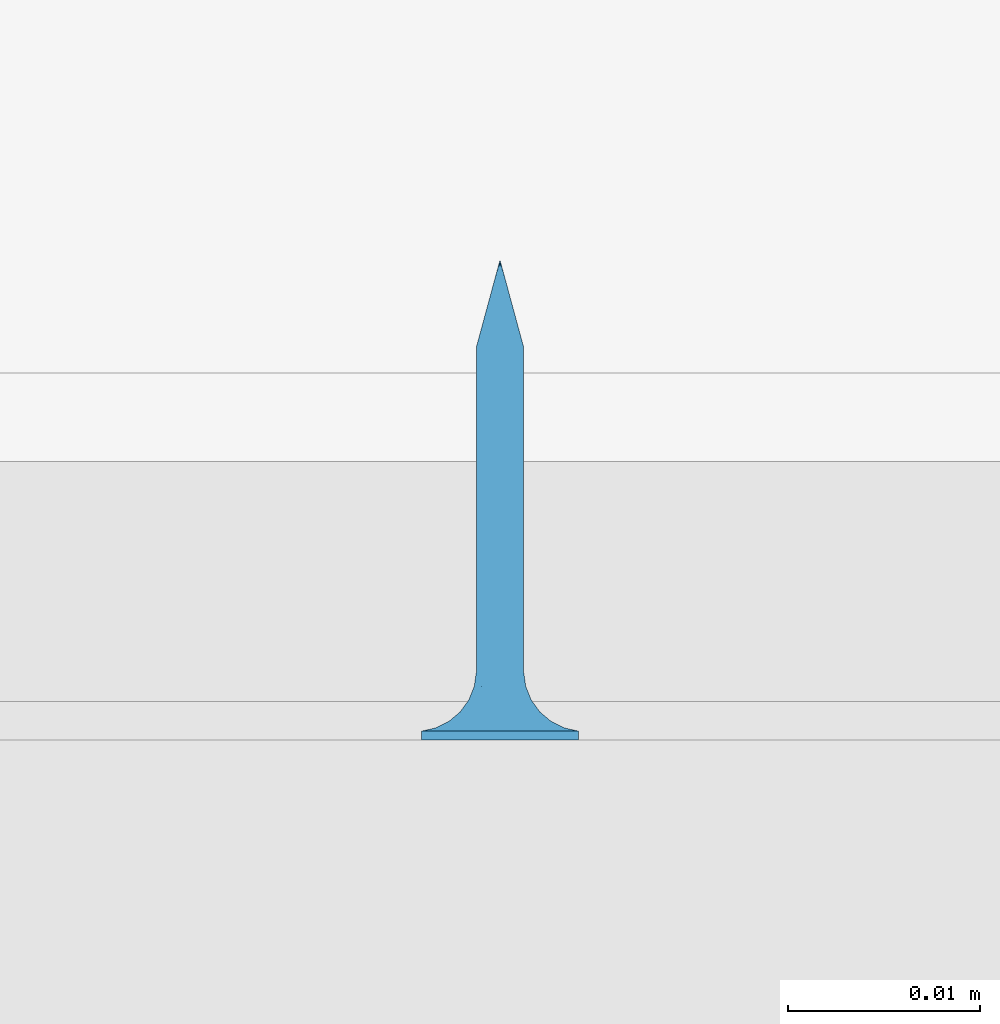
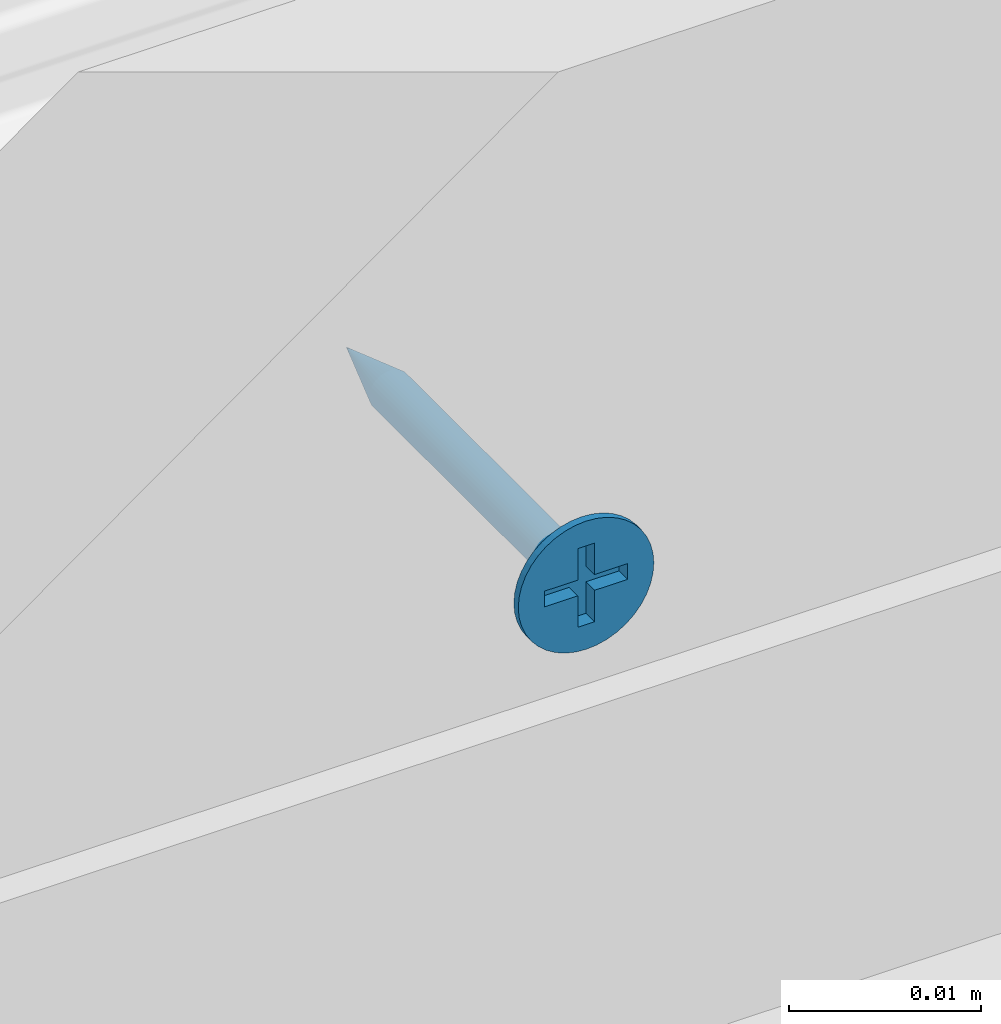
# One storey, part 9 of 79: 1 slab.
"""IFC2X3 building model written with IfcOpenShell, lengths in millimetres."""

from ifc_helpers import new_model, entity, si_unit, converted_unit, direction, frame, origin, origin_with_axes, place, context, project, spatial, faceted_brep, element, save


model = new_model("IFC2X3")

# Units and contexts
model_context = context("Model", 3, precision=1e-05, world=origin(), true_north=direction((0.0, 1.0, 0.0)))
ifc_project = project(units=[si_unit("LENGTHUNIT", "METRE", prefix="MILLI"), si_unit("AREAUNIT", "SQUARE_METRE"), si_unit("VOLUMEUNIT", "CUBIC_METRE"), converted_unit("PLANEANGLEUNIT", "DEGREE", entity("IfcPlaneAngleMeasure", 0.01745), si_unit("PLANEANGLEUNIT", "RADIAN"), dimensions=[0, 0, 0, 0, 0, 0, 0]), si_unit("SOLIDANGLEUNIT", "STERADIAN"), si_unit("MASSUNIT", "GRAM"), si_unit("TIMEUNIT", "SECOND"), si_unit("THERMODYNAMICTEMPERATUREUNIT", "DEGREE_CELSIUS"), si_unit("LUMINOUSINTENSITYUNIT", "LUMEN")], contexts=[model_context])

# Site, building, storey
site_placement = place(None, origin_with_axes())
site = spatial("IfcSite", under=ifc_project, at=site_placement, Name="Default Site", CompositionType="ELEMENT")
building_placement = place(site_placement, origin_with_axes())
building = spatial("IfcBuilding", under=site, at=building_placement, Name="Default Building", CompositionType="ELEMENT")
storey_placement = place(building_placement, origin_with_axes())
storey = spatial("IfcBuildingStorey", under=building, at=storey_placement, Name="Default Building Storey", CompositionType="ELEMENT", Elevation=0.0)

# Slab
slab_placement = place(storey_placement, frame((2330.499834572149, 5018.418709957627, 456.3541102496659), z_axis=(0.0, 0.0, 1.0), x_axis=(1.0, 0.0, 0.0)))
element("IfcSlab", 1, at=slab_placement, inside=storey, Name="Wkręt RIGIPS TN 25", context=model_context, shape_type="Brep", body=[
    faceted_brep([(-136.5890362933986, -3387.475459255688, 554.9298199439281), (-136.4636235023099, -3387.475459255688, 555.0766594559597), (-136.4636235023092, -3370.55807436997, 555.0766594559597), (-136.5890362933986, -3370.55807436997, 554.9298199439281), (-136.9005263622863, -3387.475459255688, 554.7035091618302), (-136.9005263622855, -3370.55807436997, 554.7035091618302), (-137.0789337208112, -3370.55807436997, 554.6296104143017), (-137.078933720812, -3387.475459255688, 554.6296104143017), (-137.2667048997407, -3387.475459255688, 554.5845305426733), (-137.2667048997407, -3370.55807436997, 554.5845305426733), (-137.4592163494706, -3370.55807436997, 554.5693795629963), (-137.4592163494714, -3387.475459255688, 554.5693795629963), (-136.4636235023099, -3387.475459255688, 556.5233405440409), (-136.5890362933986, -3387.475459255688, 556.6701800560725), (-136.5890362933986, -3370.55807436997, 556.6701800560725), (-136.4636235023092, -3370.55807436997, 556.5233405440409), (-138.4548091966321, -3370.55807436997, 556.5233405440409), (-138.3293964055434, -3370.55807436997, 556.6701800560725), (-138.3293964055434, -3387.475459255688, 556.6701800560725), (-138.4548091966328, -3387.475459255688, 556.5233405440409), (-136.7358758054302, -3370.55807436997, 554.8044071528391), (-136.7358758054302, -3387.475459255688, 554.8044071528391), (-138.1825568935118, -3387.475459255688, 556.7955928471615), (-138.1825568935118, -3370.55807436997, 556.7955928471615), (-138.0179063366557, -3370.55807436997, 556.8964908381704), (-138.0179063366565, -3387.475459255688, 556.8964908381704), (-136.3627255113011, -3387.475459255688, 556.3586899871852), (-136.3627255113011, -3370.55807436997, 556.3586899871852), (-136.7358758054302, -3387.475459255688, 556.7955928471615), (-136.7358758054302, -3370.55807436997, 556.7955928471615), (-137.6517277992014, -3387.475459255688, 554.5845305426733), (-137.6517277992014, -3370.55807436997, 554.5845305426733), (-137.83949897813, -3370.55807436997, 554.6296104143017), (-137.8394989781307, -3387.475459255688, 554.6296104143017), (-136.3627255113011, -3387.475459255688, 555.241310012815), (-136.3627255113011, -3370.55807436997, 555.241310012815), (-138.0179063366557, -3370.55807436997, 554.7035091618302), (-138.0179063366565, -3387.475459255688, 554.7035091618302), (-138.6746858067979, -3370.55807436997, 555.6074885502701), (-138.6898367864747, -3370.55807436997, 555.8000000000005), (-138.6898367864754, -3387.475459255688, 555.8000000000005), (-138.6746858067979, -3387.475459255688, 555.6074885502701), (-136.2285959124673, -3387.475459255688, 555.8000000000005), (-136.2437468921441, -3387.475459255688, 555.9925114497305), (-136.2437468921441, -3370.55807436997, 555.9925114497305), (-136.2285959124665, -3370.55807436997, 555.8000000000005), (-138.3293964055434, -3370.55807436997, 554.9298199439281), (-138.4548091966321, -3370.55807436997, 555.0766594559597), (-138.4548091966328, -3387.475459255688, 555.0766594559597), (-138.3293964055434, -3387.475459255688, 554.9298199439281), (-137.83949897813, -3370.55807436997, 556.9703895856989), (-137.8394989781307, -3387.475459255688, 556.9703895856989), (-138.1825568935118, -3370.55807436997, 554.8044071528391), (-138.1825568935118, -3387.475459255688, 554.8044071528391), (-138.5557071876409, -3370.55807436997, 555.241310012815), (-138.6296059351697, -3370.55807436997, 555.4197173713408), (-138.6296059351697, -3387.475459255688, 555.4197173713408), (-138.5557071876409, -3387.475459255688, 555.241310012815), (-136.2888267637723, -3387.475459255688, 555.4197173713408), (-136.2437468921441, -3387.475459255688, 555.6074885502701), (-136.2437468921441, -3370.55807436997, 555.6074885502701), (-136.2888267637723, -3370.55807436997, 555.4197173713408), (-136.2888267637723, -3387.475459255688, 556.1802826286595), (-136.2888267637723, -3370.55807436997, 556.1802826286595), (-137.4592163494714, -3387.475459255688, 557.0306204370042), (-137.4592163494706, -3370.55807436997, 557.0306204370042), (-137.2667048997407, -3370.55807436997, 557.0154694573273), (-137.2667048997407, -3387.475459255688, 557.0154694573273), (-137.0789337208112, -3370.55807436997, 556.9703895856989), (-137.078933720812, -3387.475459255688, 556.9703895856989), (-137.6517277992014, -3387.475459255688, 557.0154694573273), (-137.6517277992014, -3370.55807436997, 557.0154694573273), (-136.9005263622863, -3387.475459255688, 556.8964908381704), (-136.9005263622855, -3370.55807436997, 556.8964908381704), (-138.6296059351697, -3370.55807436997, 556.1802826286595), (-138.5557071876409, -3370.55807436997, 556.3586899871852), (-138.5557071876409, -3387.475459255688, 556.3586899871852), (-138.6296059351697, -3387.475459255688, 556.1802826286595), (-138.6746858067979, -3370.55807436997, 555.9925114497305), (-138.6746858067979, -3387.475459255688, 555.9925114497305), (-141.5377463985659, -3390.556721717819, 555.8000000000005), (-141.5377463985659, -3391.020944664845, 555.8000000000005), (-141.4875329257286, -3391.020944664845, 555.1619773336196), (-141.4875329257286, -3390.556721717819, 555.1619773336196), (-141.338128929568, -3391.020944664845, 554.539664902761), (-141.338128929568, -3390.556721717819, 554.539664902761), (-141.0932132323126, -3391.020944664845, 553.948386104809), (-141.0932132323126, -3390.556721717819, 553.948386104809), (-140.7588164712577, -3391.020944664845, 553.4027001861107), (-140.7588164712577, -3390.556721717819, 553.4027001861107), (-140.3431726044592, -3391.020944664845, 552.9160437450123), (-140.4541727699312, -3390.556721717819, 553.0314907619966), (-140.1080097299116, -3390.556721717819, 552.6986614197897), (-139.8565161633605, -3391.020944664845, 552.5003998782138), (-139.7251262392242, -3390.556721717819, 552.4088262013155), (-139.3108302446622, -3391.020944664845, 552.1660031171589), (-139.3108302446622, -3390.556721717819, 552.1660031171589), (-138.8708651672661, -3390.556721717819, 551.9735584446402), (-138.7195514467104, -3391.020944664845, 551.9210874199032), (-138.4113302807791, -3390.556721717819, 551.8341600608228), (-137.9385961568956, -3390.556721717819, 551.7497404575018), (-138.0972390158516, -3391.020944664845, 551.7716834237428), (-137.4592163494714, -3391.020944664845, 551.7214699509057), (-137.4592163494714, -3390.556721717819, 551.7214699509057), (-136.8211936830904, -3391.020944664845, 551.7716834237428), (-136.8211936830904, -3390.556721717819, 551.7716834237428), (-136.1988812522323, -3391.020944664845, 551.9210874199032), (-136.1988812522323, -3390.556721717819, 551.9210874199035), (-135.6076024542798, -3391.020944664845, 552.1660031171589), (-135.6076024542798, -3390.556721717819, 552.1660031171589), (-135.0619165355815, -3391.020944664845, 552.5003998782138), (-135.0619165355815, -3390.556721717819, 552.5003998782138), (-134.5752600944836, -3391.020944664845, 552.9160437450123), (-134.5752600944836, -3390.556721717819, 552.9160437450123), (-134.1596162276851, -3391.020944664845, 553.4027001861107), (-134.1596162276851, -3390.556721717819, 553.4027001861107), (-133.8252194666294, -3391.020944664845, 553.948386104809), (-133.8252194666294, -3390.556721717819, 553.948386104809), (-133.580303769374, -3391.020944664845, 554.539664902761), (-133.580303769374, -3390.556721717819, 554.539664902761), (-133.4308997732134, -3391.020944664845, 556.438022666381), (-133.4308997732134, -3390.556721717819, 556.438022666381), (-133.3806863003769, -3390.556721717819, 555.8000000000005), (-133.3806863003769, -3391.020944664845, 555.8000000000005), (-133.4308997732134, -3390.556721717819, 555.1619773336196), (-133.4308997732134, -3391.020944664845, 555.1619773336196), (-133.580303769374, -3391.020944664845, 557.0603350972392), (-133.580303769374, -3390.556721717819, 557.0603350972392), (-133.8252194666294, -3391.020944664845, 557.6516138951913), (-133.8252194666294, -3390.556721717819, 557.6516138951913), (-134.1596162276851, -3391.020944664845, 558.1972998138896), (-134.1596162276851, -3390.556721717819, 558.1972998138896), (-134.5752600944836, -3391.020944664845, 558.683956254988), (-134.5752600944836, -3390.556721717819, 558.683956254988), (-135.0619165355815, -3391.020944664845, 559.0996001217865), (-135.0619165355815, -3390.556721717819, 559.0996001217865), (-135.6076024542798, -3391.020944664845, 559.4339968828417), (-135.6076024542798, -3390.556721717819, 559.4339968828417), (-136.1988812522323, -3391.020944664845, 559.6789125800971), (-136.1988812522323, -3390.556721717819, 559.6789125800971), (-136.8211936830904, -3391.020944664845, 559.8283165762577), (-136.8211936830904, -3390.556721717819, 559.8283165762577), (-137.4592163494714, -3391.020944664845, 559.8785300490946), (-137.4592163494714, -3390.556721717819, 559.8785300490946), (-138.0972390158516, -3391.020944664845, 559.8283165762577), (-138.0972390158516, -3390.556721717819, 559.8283165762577), (-138.7195514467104, -3391.020944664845, 559.6789125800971), (-138.7195514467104, -3390.556721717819, 559.6789125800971), (-139.3108302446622, -3391.020944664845, 559.4339968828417), (-139.3108302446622, -3390.556721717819, 559.4339968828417), (-139.8565161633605, -3391.020944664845, 559.0996001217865), (-139.8565161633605, -3390.556721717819, 559.0996001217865), (-140.3431726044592, -3391.020944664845, 558.683956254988), (-140.3431726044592, -3390.556721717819, 558.683956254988), (-140.7588164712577, -3391.020944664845, 558.1972998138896), (-140.7588164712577, -3390.556721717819, 558.1972998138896), (-141.0932132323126, -3391.020944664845, 557.6516138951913), (-141.0932132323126, -3390.556721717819, 557.6516138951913), (-141.338128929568, -3391.020944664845, 557.0603350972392), (-141.338128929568, -3390.556721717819, 557.0603350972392), (-141.4875329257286, -3391.020944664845, 556.438022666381), (-141.4875329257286, -3390.556721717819, 556.438022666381), (-137.8060615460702, -3388.229732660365, 554.5055560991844), (-137.4592163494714, -3388.229732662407, 554.4598930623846), (-138.1292698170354, -3388.229732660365, 554.6394333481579), (-138.4068150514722, -3388.229732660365, 554.8524012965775), (-138.6197830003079, -3388.229732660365, 555.1299465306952), (-138.7536602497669, -3388.229732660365, 555.4531548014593), (-138.7993232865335, -3388.229732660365, 555.7999999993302), (-138.7536602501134, -3388.229732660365, 556.1468451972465), (-138.6197830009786, -3388.229732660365, 556.4700534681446), (-138.4068150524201, -3388.229732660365, 556.7475987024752), (-138.1292698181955, -3388.229732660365, 556.9605666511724), (-137.8060615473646, -3388.229732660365, 557.0944439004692), (-137.4592163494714, -3388.229732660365, 557.1401069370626), (-137.1123711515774, -3388.229732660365, 557.0944439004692), (-136.7891628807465, -3388.229732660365, 556.9605666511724), (-136.5116176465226, -3388.229732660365, 556.7475987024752), (-136.2986496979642, -3388.229732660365, 556.4700534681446), (-136.1647724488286, -3388.229732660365, 556.1468451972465), (-136.1191094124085, -3388.229732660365, 555.7999999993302), (-136.1647724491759, -3388.229732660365, 555.4531548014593), (-136.2986496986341, -3388.229732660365, 555.1299465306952), (-136.5116176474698, -3388.229732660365, 554.8524012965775), (-136.7891628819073, -3388.229732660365, 554.6394333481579), (-137.1123711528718, -3388.229732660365, 554.5055560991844), (-137.4592163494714, -3388.936142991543, 554.1737111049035), (-137.8801308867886, -3388.936142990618, 554.2291255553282), (-138.2723607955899, -3388.936142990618, 554.39159250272), (-138.6091762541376, -3388.936142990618, 554.6500400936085), (-138.8676238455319, -3388.936142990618, 554.9868555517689), (-139.0300907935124, -3388.936142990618, 555.3790854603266), (-139.0855052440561, -3388.936142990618, 555.7999999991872), (-139.0300907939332, -3388.936142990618, 556.2209145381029), (-138.8676238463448, -3388.936142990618, 556.6131444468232), (-138.6091762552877, -3388.936142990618, 556.949959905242), (-138.2723607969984, -3388.936142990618, 557.2084074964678), (-137.8801308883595, -3388.936142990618, 557.3708744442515), (-137.4592163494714, -3388.936142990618, 557.4262888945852), (-137.0383018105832, -3388.936142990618, 557.3708744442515), (-136.6460719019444, -3388.936142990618, 557.2084074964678), (-136.3092564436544, -3388.936142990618, 556.949959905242), (-136.0508088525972, -3388.936142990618, 556.6131444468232), (-135.8883419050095, -3388.936142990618, 556.2209145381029), (-135.8329274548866, -3388.936142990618, 555.7999999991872), (-135.8883419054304, -3388.936142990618, 555.3790854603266), (-136.0508088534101, -3388.936142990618, 554.9868555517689), (-136.3092564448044, -3388.936142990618, 554.6500400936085), (-136.6460719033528, -3388.936142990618, 554.39159250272), (-137.0383018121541, -3388.936142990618, 554.2291255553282), (-137.4592163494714, -3389.553938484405, 553.727343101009), (-137.9956594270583, -3389.553938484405, 553.7979671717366), (-138.4955447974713, -3389.553938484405, 554.0050264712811), (-138.9248060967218, -3389.553938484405, 554.3344102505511), (-139.2541898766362, -3389.553938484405, 554.7636715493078), (-139.46124917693, -3389.553938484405, 555.2635569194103), (-139.5318732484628, -3389.553938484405, 555.7999999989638), (-139.4612491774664, -3389.553938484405, 556.3364430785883), (-139.2541898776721, -3389.553938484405, 556.8363284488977), (-138.9248060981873, -3389.553938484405, 557.2655897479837), (-138.495544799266, -3389.553938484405, 557.5949735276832), (-137.9956594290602, -3389.553938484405, 557.8020328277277), (-137.4592163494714, -3389.553938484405, 557.8726568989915), (-136.9227732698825, -3389.553938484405, 557.8020328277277), (-136.422887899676, -3389.553938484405, 557.5949735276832), (-135.9936266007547, -3389.553938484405, 557.2655897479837), (-135.6642428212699, -3389.553938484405, 556.8363284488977), (-135.4571835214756, -3389.553938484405, 556.3364430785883), (-135.3865594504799, -3389.553938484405, 555.7999999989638), (-135.457183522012, -3389.553938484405, 555.2635569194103), (-135.6642428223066, -3389.553938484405, 554.7636715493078), (-135.9936266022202, -3389.553938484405, 554.3344102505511), (-136.4228879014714, -3389.553938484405, 554.0050264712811), (-136.9227732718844, -3389.553938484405, 553.7979671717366), (-137.4592163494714, -3390.04747944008, 553.1465393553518), (-138.1459824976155, -3390.047479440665, 553.2369538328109), (-138.7859466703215, -3390.047479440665, 553.5020356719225), (-139.3354963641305, -3390.047479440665, 553.9237199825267), (-139.757180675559, -3390.047479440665, 554.4732696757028), (-140.0222625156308, -3390.047479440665, 555.1132338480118), (-140.1126769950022, -3390.047479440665, 555.7999999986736), (-140.0222625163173, -3390.047479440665, 556.4867661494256), (-139.7571806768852, -3390.047479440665, 557.1267303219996), (-139.3354963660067, -3390.047479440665, 557.6762800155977), (-138.7859466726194, -3390.047479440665, 558.0979643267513), (-138.1459825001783, -3390.047479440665, 558.3630461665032), (-137.4592163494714, -3390.047479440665, 558.4534606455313), (-136.7724501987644, -3390.047479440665, 558.3630461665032), (-136.1324860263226, -3390.047479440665, 558.0979643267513), (-135.5829363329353, -3390.047479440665, 557.6762800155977), (-135.1612520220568, -3390.047479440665, 557.1267303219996), (-134.8961701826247, -3390.047479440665, 556.4867661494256), (-134.8057557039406, -3390.047479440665, 555.7999999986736), (-134.8961701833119, -3390.047479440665, 555.1132338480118), (-135.1612520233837, -3390.047479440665, 554.4732696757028), (-135.5829363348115, -3390.047479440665, 553.9237199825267), (-136.1324860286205, -3390.047479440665, 553.5020356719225), (-136.7724502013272, -3390.047479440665, 553.2369538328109), (-137.4592163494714, -3390.388294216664, 552.4648055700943), (-138.3224281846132, -3390.388294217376, 552.5784495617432), (-139.1268135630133, -3390.388294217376, 552.9116368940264), (-139.8175549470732, -3390.388294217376, 553.4416613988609), (-140.3475794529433, -3390.388294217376, 554.1324027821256), (-140.6807667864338, -3390.388294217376, 554.9367881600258), (-140.7944107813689, -3390.388294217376, 555.7999999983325), (-140.6807667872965, -3390.388294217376, 556.6632118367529), (-140.3475794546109, -3390.388294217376, 557.4675972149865), (-139.8175549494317, -3390.388294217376, 558.1583385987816), (-139.1268135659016, -3390.388294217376, 558.6883631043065), (-138.3224281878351, -3390.388294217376, 559.0215504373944), (-137.4592163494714, -3390.388294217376, 559.1351944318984), (-136.5960045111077, -3390.388294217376, 559.0215504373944), (-135.7916191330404, -3390.388294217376, 558.6883631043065), (-135.1008777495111, -3390.388294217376, 558.1583385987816), (-134.5708532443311, -3390.388294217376, 557.4675972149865), (-134.2376659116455, -3390.388294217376, 556.6632118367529), (-134.1240219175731, -3390.388294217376, 555.7999999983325), (-134.2376659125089, -3390.388294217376, 554.9367881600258), (-134.5708532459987, -3390.388294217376, 554.1324027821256), (-135.1008777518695, -3390.388294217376, 553.4416613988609), (-135.7916191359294, -3390.388294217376, 552.9116368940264), (-136.5960045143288, -3390.388294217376, 552.5784495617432), (-137.4592163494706, -3366.021033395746, 555.8000000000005), (-139.9592163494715, -3391.020944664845, 556.3000000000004), (-137.9592163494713, -3391.020944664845, 556.3000000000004), (-139.9592163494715, -3391.020944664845, 555.3000000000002), (-137.9592163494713, -3391.020944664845, 555.3000000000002), (-137.9592163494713, -3391.020944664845, 553.3000000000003), (-136.9592163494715, -3391.020944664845, 553.3000000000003), (-136.9592163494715, -3391.020944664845, 555.3000000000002), (-134.9592163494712, -3391.020944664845, 555.3000000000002), (-134.9592163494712, -3391.020944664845, 556.3000000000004), (-136.9592163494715, -3391.020944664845, 556.3000000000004), (-136.9592163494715, -3391.020944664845, 558.3000000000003), (-137.9592163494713, -3391.020944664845, 558.3000000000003), (-136.9592163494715, -3390.128974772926, 556.3000000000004), (-134.9592163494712, -3390.128974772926, 556.3000000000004), (-134.9592163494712, -3390.128974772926, 555.3000000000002), (-136.9592163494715, -3390.128974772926, 555.3000000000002), (-136.9592163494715, -3390.128974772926, 553.3000000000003), (-137.9592163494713, -3390.128974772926, 553.3000000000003), (-137.9592163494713, -3390.128974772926, 555.3000000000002), (-139.9592163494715, -3390.128974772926, 555.3000000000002), (-139.9592163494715, -3390.128974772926, 556.3000000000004), (-137.9592163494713, -3390.128974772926, 556.3000000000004), (-137.9592163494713, -3390.128974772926, 558.3000000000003), (-136.9592163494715, -3390.128974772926, 558.3000000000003)], [[[0, 1, 2, 3]], [[4, 5, 6, 7]], [[8, 9, 10, 11]], [[12, 13, 14, 15]], [[16, 17, 18, 19]], [[0, 3, 20, 21]], [[22, 23, 24, 25]], [[26, 12, 15, 27]], [[28, 29, 14, 13]], [[30, 31, 32, 33]], [[1, 34, 35, 2]], [[18, 17, 23, 22]], [[7, 6, 9, 8]], [[33, 32, 36, 37]], [[38, 39, 40, 41]], [[42, 43, 44, 45]], [[46, 47, 48, 49]], [[25, 24, 50, 51]], [[37, 36, 52, 53]], [[54, 55, 56, 57]], [[53, 52, 46, 49]], [[47, 54, 57, 48]], [[58, 59, 60, 61]], [[59, 42, 45, 60]], [[43, 62, 63, 44]], [[64, 65, 66, 67]], [[67, 66, 68, 69]], [[55, 38, 41, 56]], [[70, 71, 65, 64]], [[72, 73, 29, 28]], [[74, 75, 76, 77]], [[69, 68, 73, 72]], [[39, 78, 79, 40]], [[75, 16, 19, 76]], [[62, 26, 27, 63]], [[11, 10, 31, 30]], [[21, 20, 5, 4]], [[34, 58, 61, 35]], [[51, 50, 71, 70]], [[78, 74, 77, 79]], [[80, 81, 82, 83]], [[84, 85, 83, 82]], [[86, 87, 85, 84]], [[87, 86, 88, 89]], [[88, 90, 89]], [[90, 91, 89]], [[92, 91, 93]], [[91, 90, 93]], [[93, 94, 92]], [[93, 95, 94]], [[95, 96, 94]], [[97, 96, 98]], [[96, 95, 98]], [[98, 99, 97]], [[100, 99, 101]], [[99, 98, 101]], [[101, 102, 100]], [[102, 103, 100]], [[103, 102, 104, 105]], [[106, 107, 105, 104]], [[108, 109, 107, 106]], [[109, 108, 110, 111]], [[112, 113, 111, 110]], [[113, 112, 114, 115]], [[116, 117, 115, 114]], [[118, 119, 117, 116]], [[120, 121, 122, 123]], [[123, 122, 124, 125]], [[119, 118, 125, 124]], [[126, 127, 121, 120]], [[128, 129, 127, 126]], [[129, 128, 130, 131]], [[132, 133, 131, 130]], [[133, 132, 134, 135]], [[136, 137, 135, 134]], [[138, 139, 137, 136]], [[139, 138, 140, 141]], [[142, 143, 141, 140]], [[143, 142, 144, 145]], [[146, 147, 145, 144]], [[148, 149, 147, 146]], [[149, 148, 150, 151]], [[152, 153, 151, 150]], [[153, 152, 154, 155]], [[156, 157, 155, 154]], [[158, 159, 157, 156]], [[159, 158, 160, 161]], [[81, 80, 161, 160]], [[162, 11, 30]], [[162, 163, 11]], [[30, 33, 162]], [[162, 33, 164]], [[37, 164, 33]], [[164, 37, 53]], [[53, 165, 164]], [[53, 49, 165]], [[166, 49, 48]], [[166, 165, 49]], [[48, 57, 166]], [[166, 57, 167]], [[56, 167, 57]], [[167, 56, 41]], [[41, 168, 167]], [[41, 40, 168]], [[169, 40, 79]], [[169, 168, 40]], [[79, 77, 169]], [[169, 77, 170]], [[76, 170, 77]], [[170, 76, 19]], [[19, 171, 170]], [[19, 18, 171]], [[172, 18, 22]], [[172, 171, 18]], [[22, 25, 172]], [[172, 25, 173]], [[51, 173, 25]], [[173, 51, 70]], [[70, 174, 173]], [[70, 64, 174]], [[175, 64, 67]], [[175, 174, 64]], [[67, 69, 175]], [[175, 69, 176]], [[72, 176, 69]], [[176, 72, 28]], [[28, 177, 176]], [[28, 13, 177]], [[178, 13, 12]], [[178, 177, 13]], [[12, 26, 178]], [[178, 26, 179]], [[62, 179, 26]], [[179, 62, 43]], [[43, 180, 179]], [[43, 42, 180]], [[181, 42, 59]], [[181, 180, 42]], [[59, 58, 181]], [[181, 58, 182]], [[34, 182, 58]], [[182, 34, 1]], [[1, 183, 182]], [[1, 0, 183]], [[184, 0, 21]], [[184, 183, 0]], [[21, 4, 184]], [[184, 4, 185]], [[7, 185, 4]], [[185, 7, 8]], [[8, 163, 185]], [[8, 11, 163]], [[186, 163, 187]], [[162, 187, 163]], [[164, 188, 187, 162]], [[165, 189, 188, 164]], [[166, 190, 189, 165]], [[167, 191, 190, 166]], [[168, 192, 191, 167]], [[169, 193, 192, 168]], [[170, 194, 193, 169]], [[171, 195, 194, 170]], [[172, 196, 195, 171]], [[173, 197, 196, 172]], [[174, 198, 197, 173]], [[175, 199, 198, 174]], [[176, 200, 199, 175]], [[177, 201, 200, 176]], [[178, 202, 201, 177]], [[179, 203, 202, 178]], [[180, 204, 203, 179]], [[181, 205, 204, 180]], [[182, 206, 205, 181]], [[183, 207, 206, 182]], [[184, 208, 207, 183]], [[185, 209, 208, 184]], [[185, 163, 209]], [[186, 209, 163]], [[210, 186, 211]], [[187, 211, 186]], [[188, 212, 211, 187]], [[189, 213, 212, 188]], [[190, 214, 213, 189]], [[191, 215, 214, 190]], [[192, 216, 215, 191]], [[193, 217, 216, 192]], [[194, 218, 217, 193]], [[195, 219, 218, 194]], [[196, 220, 219, 195]], [[197, 221, 220, 196]], [[198, 222, 221, 197]], [[199, 223, 222, 198]], [[200, 224, 223, 199]], [[201, 225, 224, 200]], [[202, 226, 225, 201]], [[203, 227, 226, 202]], [[204, 228, 227, 203]], [[205, 229, 228, 204]], [[206, 230, 229, 205]], [[207, 231, 230, 206]], [[208, 232, 231, 207]], [[209, 233, 232, 208]], [[209, 186, 233]], [[210, 233, 186]], [[234, 210, 235]], [[211, 235, 210]], [[212, 236, 235, 211]], [[213, 237, 236, 212]], [[214, 238, 237, 213]], [[215, 239, 238, 214]], [[216, 240, 239, 215]], [[217, 241, 240, 216]], [[218, 242, 241, 217]], [[219, 243, 242, 218]], [[220, 244, 243, 219]], [[221, 245, 244, 220]], [[222, 246, 245, 221]], [[223, 247, 246, 222]], [[224, 248, 247, 223]], [[225, 249, 248, 224]], [[226, 250, 249, 225]], [[227, 251, 250, 226]], [[228, 252, 251, 227]], [[229, 253, 252, 228]], [[230, 254, 253, 229]], [[231, 255, 254, 230]], [[232, 256, 255, 231]], [[233, 257, 256, 232]], [[233, 210, 257]], [[234, 257, 210]], [[258, 99, 100]], [[258, 259, 99]], [[100, 103, 258]], [[258, 234, 259]], [[235, 259, 234]], [[259, 96, 97]], [[259, 260, 96]], [[97, 99, 259]], [[236, 260, 259, 235]], [[261, 91, 92]], [[260, 92, 94]], [[260, 261, 92]], [[94, 96, 260]], [[237, 261, 260, 236]], [[262, 87, 89]], [[89, 261, 262]], [[89, 91, 261]], [[238, 262, 261, 237]], [[85, 87, 263]], [[262, 263, 87]], [[239, 263, 262, 238]], [[263, 80, 83]], [[263, 264, 80]], [[83, 85, 263]], [[240, 264, 263, 239]], [[265, 159, 161]], [[161, 264, 265]], [[161, 80, 264]], [[241, 265, 264, 240]], [[265, 266, 157, 159]], [[242, 266, 265, 241]], [[266, 153, 155]], [[266, 267, 153]], [[155, 157, 266]], [[243, 267, 266, 242]], [[268, 149, 151]], [[151, 267, 268]], [[151, 153, 267]], [[244, 268, 267, 243]], [[268, 269, 147, 149]], [[245, 269, 268, 244]], [[269, 143, 145]], [[269, 270, 143]], [[145, 147, 269]], [[246, 270, 269, 245]], [[271, 139, 141]], [[141, 270, 271]], [[141, 143, 270]], [[247, 271, 270, 246]], [[271, 272, 137, 139]], [[248, 272, 271, 247]], [[272, 133, 135]], [[272, 273, 133]], [[135, 137, 272]], [[249, 273, 272, 248]], [[274, 129, 131]], [[131, 273, 274]], [[131, 133, 273]], [[250, 274, 273, 249]], [[274, 275, 127, 129]], [[251, 275, 274, 250]], [[275, 122, 121]], [[275, 276, 122]], [[121, 127, 275]], [[252, 276, 275, 251]], [[277, 119, 124]], [[124, 276, 277]], [[124, 122, 276]], [[253, 277, 276, 252]], [[117, 119, 278]], [[277, 278, 119]], [[254, 278, 277, 253]], [[278, 113, 115]], [[278, 279, 113]], [[115, 117, 278]], [[255, 279, 278, 254]], [[280, 109, 111]], [[111, 279, 280]], [[111, 113, 279]], [[256, 280, 279, 255]], [[107, 109, 281]], [[280, 281, 109]], [[257, 281, 280, 256]], [[257, 234, 281]], [[258, 281, 234]], [[281, 103, 105]], [[281, 258, 103]], [[105, 107, 281]], [[38, 55, 282]], [[282, 39, 38]], [[55, 54, 282]], [[47, 46, 282]], [[282, 54, 47]], [[52, 36, 282]], [[282, 46, 52]], [[36, 32, 282]], [[31, 10, 282]], [[282, 32, 31]], [[9, 6, 282]], [[282, 10, 9]], [[6, 5, 282]], [[20, 3, 282]], [[282, 5, 20]], [[2, 35, 282]], [[282, 3, 2]], [[35, 61, 282]], [[60, 45, 282]], [[282, 61, 60]], [[44, 63, 282]], [[282, 45, 44]], [[63, 27, 282]], [[15, 14, 282]], [[282, 27, 15]], [[29, 73, 282]], [[282, 14, 29]], [[73, 68, 282]], [[66, 65, 282]], [[282, 68, 66]], [[71, 50, 282]], [[282, 65, 71]], [[50, 24, 282]], [[23, 17, 282]], [[282, 24, 23]], [[16, 75, 282]], [[282, 17, 16]], [[75, 74, 282]], [[78, 39, 282]], [[282, 74, 78]], [[283, 156, 154, 284]], [[283, 285, 286, 287, 288, 289, 290, 291, 292, 293, 294, 284, 154, 152, 150, 148, 146, 144, 142, 140, 138, 136, 134, 132, 130, 128, 126, 120, 123, 125, 118, 116, 114, 112, 110, 108, 106, 104, 102, 101, 98, 95, 93, 90, 88, 86, 84, 82, 81, 160, 158, 156]], [[295, 296, 297, 298, 299, 300, 301, 302, 303, 304, 305, 306]], [[297, 290, 289, 298]], [[296, 291, 290, 297]], [[295, 292, 291, 296]], [[306, 293, 292, 295]], [[305, 294, 293, 306]], [[304, 284, 294, 305]], [[303, 283, 284, 304]], [[302, 285, 283, 303]], [[301, 286, 285, 302]], [[300, 287, 286, 301]], [[299, 288, 287, 300]], [[298, 289, 288, 299]]]),
])

save(model, "model.ifc")
